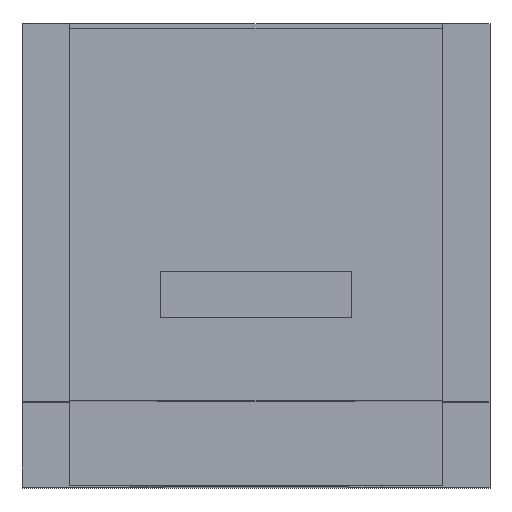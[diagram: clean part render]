
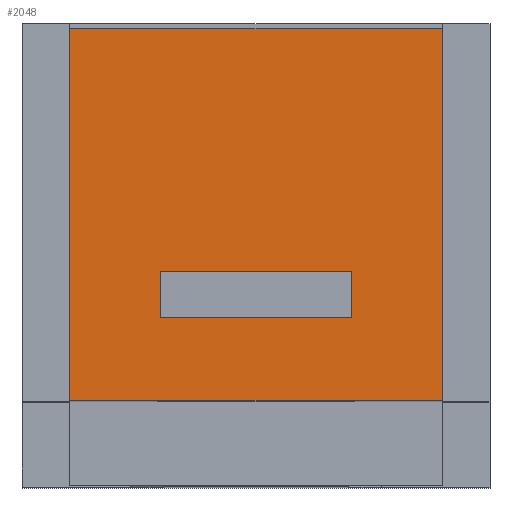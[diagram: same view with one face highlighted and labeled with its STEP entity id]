
A CAD part, top view. The second image highlights one B-rep face of the part: STEP entity #2048.
In plain terms, the highlighted planar face has unit normal (0, 0, 1) as drawn and (0, 1, 0) by its records, which use the part's own axes.
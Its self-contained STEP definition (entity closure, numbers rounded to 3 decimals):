
#1616=CARTESIAN_POINT('',(-6.2,23.8,3.65));
#1617=VERTEX_POINT('',#1616);
#1624=CARTESIAN_POINT('',(-6.2,23.8,6.65));
#1625=VERTEX_POINT('',#1624);
#1626=CARTESIAN_POINT('',(-6.2,23.8,6.65));
#1627=DIRECTION('',(0.0,0.0,-1.0));
#1628=VECTOR('',#1627,3.);
#1629=LINE('',#1626,#1628);
#1630=EDGE_CURVE('',#1625,#1617,#1629,.T.);
#1694=CARTESIAN_POINT('',(6.2,23.8,3.65));
#1695=VERTEX_POINT('',#1694);
#1702=CARTESIAN_POINT('',(-6.2,23.8,3.65));
#1703=DIRECTION('',(1.0,0.0,0.0));
#1704=VECTOR('',#1703,12.4);
#1705=LINE('',#1702,#1704);
#1706=EDGE_CURVE('',#1617,#1695,#1705,.T.);
#1757=CARTESIAN_POINT('',(6.2,23.8,6.65));
#1758=VERTEX_POINT('',#1757);
#1759=CARTESIAN_POINT('',(6.2,23.8,6.65));
#1760=DIRECTION('',(-1.0,0.0,0.0));
#1761=VECTOR('',#1760,12.4);
#1762=LINE('',#1759,#1761);
#1763=EDGE_CURVE('',#1758,#1625,#1762,.T.);
#1786=CARTESIAN_POINT('',(6.2,23.8,3.65));
#1787=DIRECTION('',(0.0,0.0,1.0));
#1788=VECTOR('',#1787,3.);
#1789=LINE('',#1786,#1788);
#1790=EDGE_CURVE('',#1695,#1758,#1789,.T.);
#1907=CARTESIAN_POINT('',(-12.05,23.8,-12.05));
#1908=VERTEX_POINT('',#1907);
#1915=CARTESIAN_POINT('',(12.05,23.8,-12.05));
#1916=VERTEX_POINT('',#1915);
#1917=CARTESIAN_POINT('',(12.05,23.8,-12.05));
#1918=DIRECTION('',(-1.0,0.0,0.0));
#1919=VECTOR('',#1918,24.1);
#1920=LINE('',#1917,#1919);
#1921=EDGE_CURVE('',#1916,#1908,#1920,.T.);
#1939=CARTESIAN_POINT('',(12.05,23.8,12.05));
#1940=VERTEX_POINT('',#1939);
#1941=CARTESIAN_POINT('',(12.05,23.8,-12.05));
#1942=DIRECTION('',(0.0,0.0,1.0));
#1943=VECTOR('',#1942,24.1);
#1944=LINE('',#1941,#1943);
#1945=EDGE_CURVE('',#1916,#1940,#1944,.T.);
#1961=CARTESIAN_POINT('',(-12.05,23.8,12.05));
#1962=VERTEX_POINT('',#1961);
#1971=CARTESIAN_POINT('',(-12.05,23.8,12.05));
#1972=DIRECTION('',(1.0,0.0,0.0));
#1973=VECTOR('',#1972,24.1);
#1974=LINE('',#1971,#1973);
#1975=EDGE_CURVE('',#1962,#1940,#1974,.T.);
#2021=CARTESIAN_POINT('',(-12.05,23.8,-12.05));
#2022=DIRECTION('',(0.0,0.0,1.0));
#2023=VECTOR('',#2022,24.1);
#2024=LINE('',#2021,#2023);
#2025=EDGE_CURVE('',#1908,#1962,#2024,.T.);
#2031=CARTESIAN_POINT('',(-12.05,23.8,0.0));
#2032=DIRECTION('',(0.0,1.0,0.0));
#2033=DIRECTION('',(0.0,0.0,1.0));
#2034=AXIS2_PLACEMENT_3D('',#2031,#2032,#2033);
#2035=PLANE('',#2034);
#2036=ORIENTED_EDGE('',*,*,#1975,.T.);
#2037=ORIENTED_EDGE('',*,*,#1945,.F.);
#2038=ORIENTED_EDGE('',*,*,#1921,.T.);
#2039=ORIENTED_EDGE('',*,*,#2025,.T.);
#2040=EDGE_LOOP('',(#2036,#2037,#2038,#2039));
#2041=FACE_OUTER_BOUND('',#2040,.T.);
#2042=ORIENTED_EDGE('',*,*,#1790,.T.);
#2043=ORIENTED_EDGE('',*,*,#1763,.T.);
#2044=ORIENTED_EDGE('',*,*,#1630,.T.);
#2045=ORIENTED_EDGE('',*,*,#1706,.T.);
#2046=EDGE_LOOP('',(#2042,#2043,#2044,#2045));
#2047=FACE_BOUND('',#2046,.T.);
#2048=ADVANCED_FACE('',(#2041,#2047),#2035,.T.);
